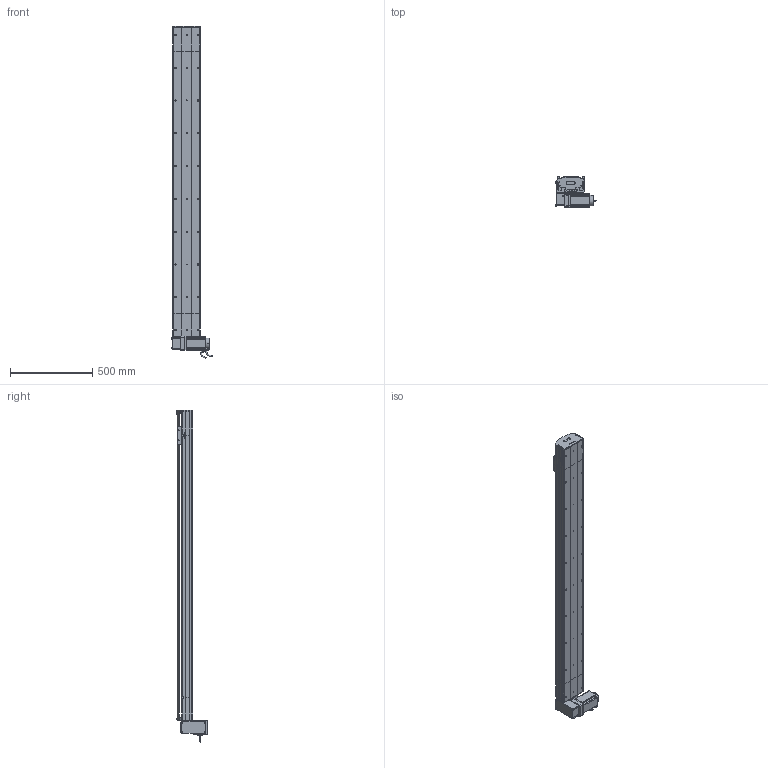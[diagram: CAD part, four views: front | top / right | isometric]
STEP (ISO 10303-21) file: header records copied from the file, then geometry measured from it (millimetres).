
FILE_DESCRIPTION (( 'STEP AP214' ), '1' );
FILE_NAME ('D17 TBN RU S1600.STEP', '2010-06-30T11:02:56', ( 'Christophe Gaillard' ), ( 'SGA' ), 'SwSTEP 2.0', 'SolidWorks 2010', '' );
FILE_SCHEMA (( 'AUTOMOTIVE_DESIGN' ));
Length unit declared in the file: millimetre
Products named in the file (40): corp D17B 1600_Default; Head RU D17B_Default; corpl head D17 _Default; couvercle D17B head_Default; plaque de  bout tail D17B_Default; vis M5 L5_Default; tete d''axe poulie D17B; Tail D17B_Default; Renvoi RU_Default; corpl tail D17B_Default; cache arbre D17_Default; Vis M5 L16-2_Default; vis M5 L16_Default; Conecteur2_Default; codeur 90BLDC125-640; corps 90BLDC125A-640; Plaque racord D17_Default; vis M5 L70_Default; Conecteur_Default; avant 90BLDC125A-640; Moteur motionking 90BLDC125A-640; couroie head D17_Default; poulie head_Default; plaque de  bout head D17B RU_Default; poulie tail_Default; couvercle D17B_Default; vis M5 L12_Default; vis M5 L8 90°_Default; Chariot D17 TBN; vis M5 L25_Default; chariot D17 TBN; Couroie tail D17B_Default; guide D17; Arbre+rail head D17B; cache D17_Default; D17 TBN RU S1600; course 1600 D17B_Default; Couroie+ rail D17 Course 1600 ; couvercle D17B course L1600_Default; Rail D17B
Assembly tree (66 placements, depth 4):
  D17 TBN RU S1600
    Tail D17B_Default
      Couroie tail D17B_Default
      vis M5 L12_Default  x4
      tete d''axe poulie D17B
      vis M5 L8 90°_Default  x2
      poulie tail_Default
      couvercle D17B_Default
      corpl tail D17B_Default
      Rail D17B
      vis M5 L25_Default  x2
      plaque de  bout tail D17B_Default
    chariot D17 TBN
      guide D17  x2
      Chariot D17 TBN
    Head RU D17B_Default
      vis M5 L70_Default  x4
      Plaque racord D17_Default
      cache arbre D17_Default
      vis M5 L5_Default  x4
      Arbre+rail head D17B
      vis M5 L25_Default  x2
      vis M5 L12_Default  x8
      Vis M5 L16-2_Default  x4
      couvercle D17B head_Default
      plaque de  bout head D17B RU_Default
      cache D17_Default  x2
      Moteur motionking 90BLDC125A-640
        Conecteur2_Default
        avant 90BLDC125A-640
        codeur 90BLDC125-640
        corps 90BLDC125A-640
        Conecteur_Default
      vis M5 L16_Default  x2
      poulie head_Default
      Renvoi RU_Default
      corpl head D17 _Default
      couroie head D17_Default
    course 1600 D17B_Default
      corp D17B 1600_Default
      Couroie+ rail D17 Course 1600 
      couvercle D17B course L1600_Default
Bounding box: 245.2 x 188.65 x 2023.95 mm (x, y, z)
Volume: 12108282.1 mm3; surface area: 3461562.4 mm2
Topology: 89 solids, 89 shells, 2567 faces, 6517 edges, 4202 vertices
Faces by surface type: plane 1533, cylinder 737, bspline 136, cone 80, torus 77, sphere 4
Entity records: 82883 total; most frequent: CARTESIAN_POINT 24787, ORIENTED_EDGE 10206, DIRECTION 9652, EDGE_CURVE 5103, LINE 3410, VECTOR 3410, VERTEX_POINT 3346, AXIS2_PLACEMENT_3D 3121
